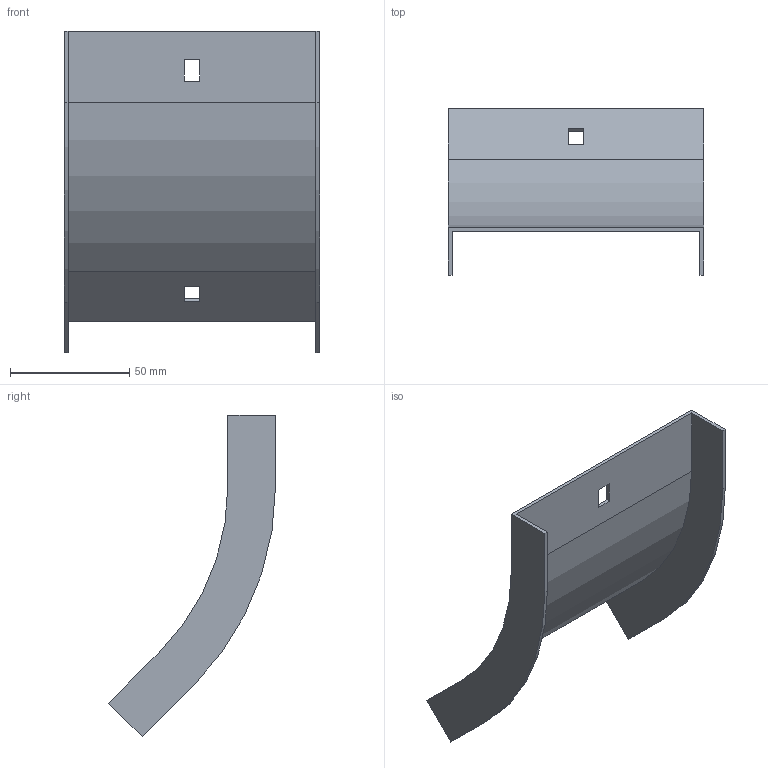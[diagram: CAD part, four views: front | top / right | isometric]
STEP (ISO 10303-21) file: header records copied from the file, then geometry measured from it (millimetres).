
FILE_DESCRIPTION (( 'STEP AP214' ), '1' );
FILE_NAME ('31G1P100.step', '2025-02-21T12:47:28', ( '' ), ( '' ), 'SwSTEP 2.0', 'SolidWorks 2023', '' );
FILE_SCHEMA (( 'AUTOMOTIVE_DESIGN' ));
Length unit declared in the file: millimetre
Products named in the file (1): 31G1P100
Bounding box: 107 x 70.06 x 135.01 mm (x, y, z)
Volume: 30057.8 mm3; surface area: 41059.5 mm2
Topology: 1 solids, 1 shells, 26 faces, 72 edges, 48 vertices
Faces by surface type: plane 22, cylinder 4
Entity records: 855 total; most frequent: CARTESIAN_POINT 147, ORIENTED_EDGE 144, DIRECTION 134, EDGE_CURVE 72, VECTOR 64, LINE 64, VERTEX_POINT 48, AXIS2_PLACEMENT_3D 35
